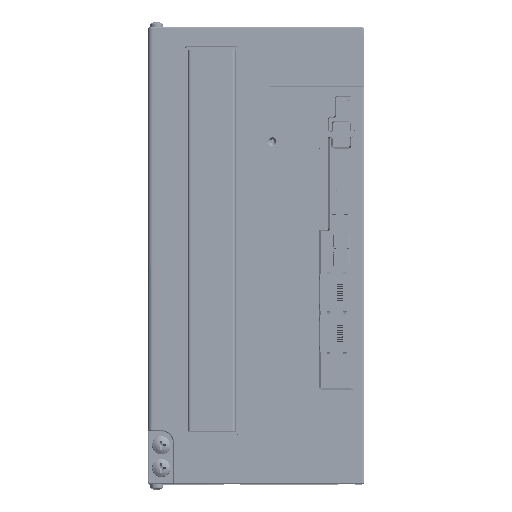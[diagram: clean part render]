
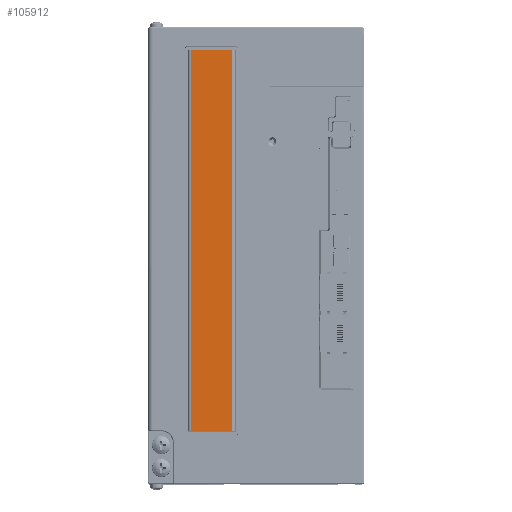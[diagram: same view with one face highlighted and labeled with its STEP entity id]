
A CAD part, top view. The second image highlights one B-rep face of the part: STEP entity #105912.
In plain terms, the highlighted planar face has unit normal (0, 0, 1).
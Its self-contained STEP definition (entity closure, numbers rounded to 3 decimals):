
#1698 = ORIENTED_EDGE ( 'NONE', *, *, #208376, .T. ) ;
#4858 = DIRECTION ( 'NONE',  ( 0., -1., 0. ) ) ;
#22663 = LINE ( 'NONE', #218795, #266009 ) ;
#24768 = LINE ( 'NONE', #254112, #60151 ) ;
#26710 = DIRECTION ( 'NONE',  ( -1., 0., 0. ) ) ;
#34660 = ORIENTED_EDGE ( 'NONE', *, *, #69432, .T. ) ;
#54061 = DIRECTION ( 'NONE',  ( -1., 0., 0. ) ) ;
#54451 = LINE ( 'NONE', #82172, #271079 ) ;
#60151 = VECTOR ( 'NONE', #80244, 1000. ) ;
#60591 = LINE ( 'NONE', #286365, #282020 ) ;
#69432 = EDGE_CURVE ( 'NONE', #175880, #92119, #60591, .T. ) ;
#80244 = DIRECTION ( 'NONE',  ( 0., 1., 0. ) ) ;
#82172 = CARTESIAN_POINT ( 'NONE',  ( 36.15, 23., 194.2 ) ) ;
#82693 = ORIENTED_EDGE ( 'NONE', *, *, #232215, .F. ) ;
#86471 = DIRECTION ( 'NONE',  ( 0., 1., 0. ) ) ;
#92119 = VERTEX_POINT ( 'NONE', #353429 ) ;
#105912 = ADVANCED_FACE ( 'NONE', ( #173254 ), #167765, .F. ) ;
#144370 = EDGE_LOOP ( 'NONE', ( #1698, #82693, #258026, #34660 ) ) ;
#167765 = PLANE ( 'NONE',  #255412 ) ;
#173254 = FACE_OUTER_BOUND ( 'NONE', #144370, .T. ) ;
#175880 = VERTEX_POINT ( 'NONE', #260686 ) ;
#175987 = CARTESIAN_POINT ( 'NONE',  ( 18.05, 23., 194.2 ) ) ;
#208376 = EDGE_CURVE ( 'NONE', #92119, #258154, #22663, .T. ) ;
#218795 = CARTESIAN_POINT ( 'NONE',  ( 36.15, 190., 194.2 ) ) ;
#224387 = EDGE_CURVE ( 'NONE', #175880, #321887, #54451, .T. ) ;
#225137 = DIRECTION ( 'NONE',  ( 0., 0., -1. ) ) ;
#228777 = CARTESIAN_POINT ( 'NONE',  ( 36.15, 23., 194.2 ) ) ;
#232215 = EDGE_CURVE ( 'NONE', #321887, #258154, #24768, .T. ) ;
#254112 = CARTESIAN_POINT ( 'NONE',  ( 18.05, 23., 194.2 ) ) ;
#255412 = AXIS2_PLACEMENT_3D ( 'NONE', #228777, #225137, #4858 ) ;
#258026 = ORIENTED_EDGE ( 'NONE', *, *, #224387, .F. ) ;
#258154 = VERTEX_POINT ( 'NONE', #341013 ) ;
#260686 = CARTESIAN_POINT ( 'NONE',  ( 36.15, 23., 194.2 ) ) ;
#266009 = VECTOR ( 'NONE', #54061, 1000. ) ;
#271079 = VECTOR ( 'NONE', #26710, 1000. ) ;
#282020 = VECTOR ( 'NONE', #86471, 1000. ) ;
#286365 = CARTESIAN_POINT ( 'NONE',  ( 36.15, 23., 194.2 ) ) ;
#321887 = VERTEX_POINT ( 'NONE', #175987 ) ;
#341013 = CARTESIAN_POINT ( 'NONE',  ( 18.05, 190., 194.2 ) ) ;
#353429 = CARTESIAN_POINT ( 'NONE',  ( 36.15, 190., 194.2 ) ) ;
